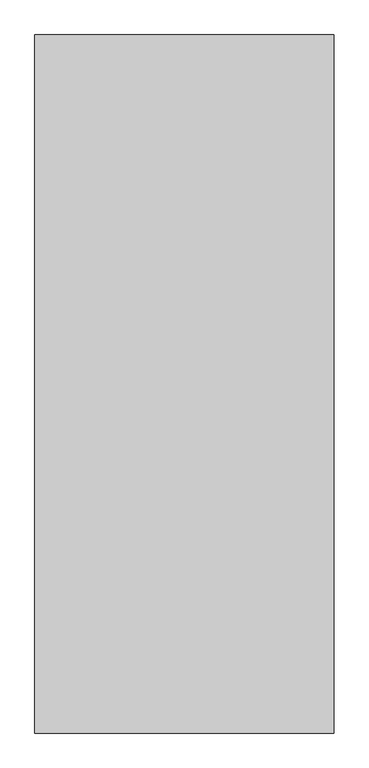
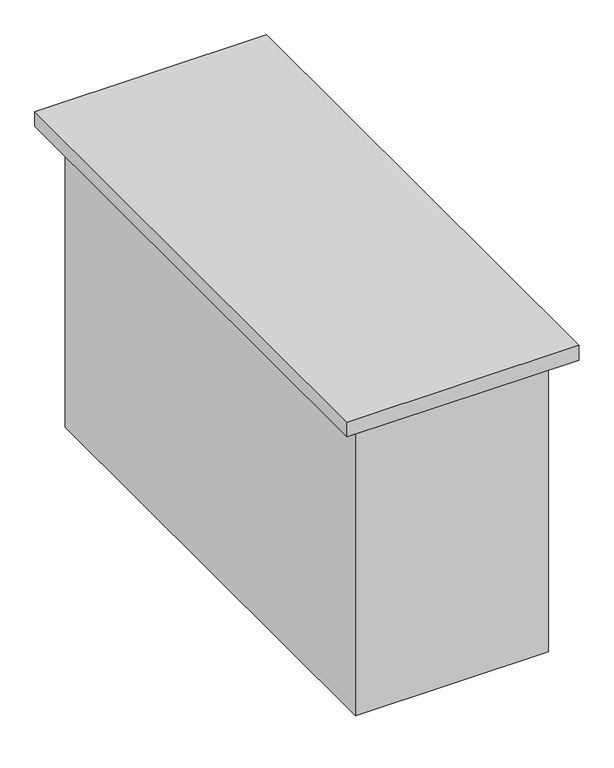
"""IFC4 building model written with IfcOpenShell, lengths in millimetres: furniture geometry, 包裝台 : 包裝台."""

from ifc_helpers import new_model, si_unit, frame, origin, origin_with_axes, place, context, project, spatial, polyline, outline, extrude, source, transform, mapped, element, save


def furniture_8bda5d38(model_context):
    return source(origin(), model_context, "Body", "SweptSolid", [
        extrude(outline(polyline([(250.0, 650.0), (250.0, -650.0), (-250.0, -650.0), (-250.0, 650.0), (250.0, 650.0)])), origin_with_axes(), (0.0, 0.0, 1.0), 810.0),
        extrude(outline(polyline([(300.0, 700.0), (300.0, -700.0), (-300.0, -700.0), (-300.0, 700.0), (300.0, 700.0)])), frame((0.0, 0.0, 810.0), z_axis=(0.0, 0.0, 1.0), x_axis=(1.0, 0.0, 0.0)), (0.0, 0.0, 1.0), 40.0),
    ])


if __name__ == "__main__":
    model = new_model("IFC4")
    model_context = context("Model", 3, world=origin())
    ifc_project = project(units=[si_unit("LENGTHUNIT", "METRE", prefix="MILLI")], contexts=[model_context])
    site = spatial("IfcSite", under=ifc_project)
    building = spatial("IfcBuilding", under=site)
    placement = place(None, origin())
    furniture_shape = furniture_8bda5d38(model_context)
    element("IfcFurniture", 1, ObjectType="包裝台 : 包裝台", at=placement, inside=building, context=model_context, shape_type="MappedRepresentation", body=[
        mapped(furniture_shape, transform((0.0, 0.0, 0.0), x_axis=(1.0, 0.0, 0.0), y_axis=(0.0, 1.0, 0.0), z_axis=(0.0, 0.0, 1.0))),
    ])
    save(model, "model.ifc")
